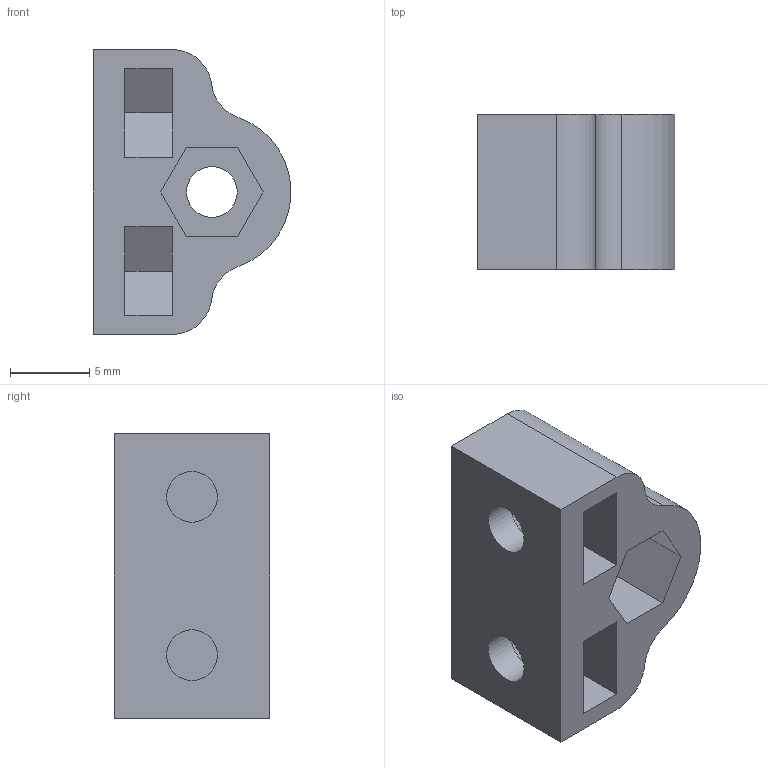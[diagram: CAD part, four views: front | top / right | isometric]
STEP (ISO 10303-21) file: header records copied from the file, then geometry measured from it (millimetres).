
FILE_DESCRIPTION(/* description */ (''),/* implementation_level */ '2;1');
FILE_NAME(/* name */ '3-08-2 Bottom wishbone mount right TPU.step',/* time_stamp */ '2025-05-10T22:03:59+02:00',/* author */ (''),/* organization */ (''),/* preprocessor_version */ 'ST-DEVELOPER v20.1',/* originating_system */ 'Autodesk Translation Framework v14.4.0.0',/* authorisation */ '');
FILE_SCHEMA (('AUTOMOTIVE_DESIGN { 1 0 10303 214 3 1 1 }'));
Length unit declared in the file: millimetre
Products named in the file (1): 3-08-2 Bottom wishbone mount right TPU
Bounding box: 12.48 x 9.8 x 18 mm (x, y, z)
Volume: 1164.3 mm3; surface area: 1301.3 mm2
Topology: 1 solids, 1 shells, 38 faces, 92 edges, 61 vertices
Faces by surface type: plane 26, cylinder 11, cone 1
Full cylindrical faces by diameter (mm): 3.2 x5, 6 x1
Entity records: 1163 total; most frequent: DIRECTION 193, CARTESIAN_POINT 192, ORIENTED_EDGE 184, EDGE_CURVE 92, LINE 69, VECTOR 69, AXIS2_PLACEMENT_3D 62, VERTEX_POINT 61
